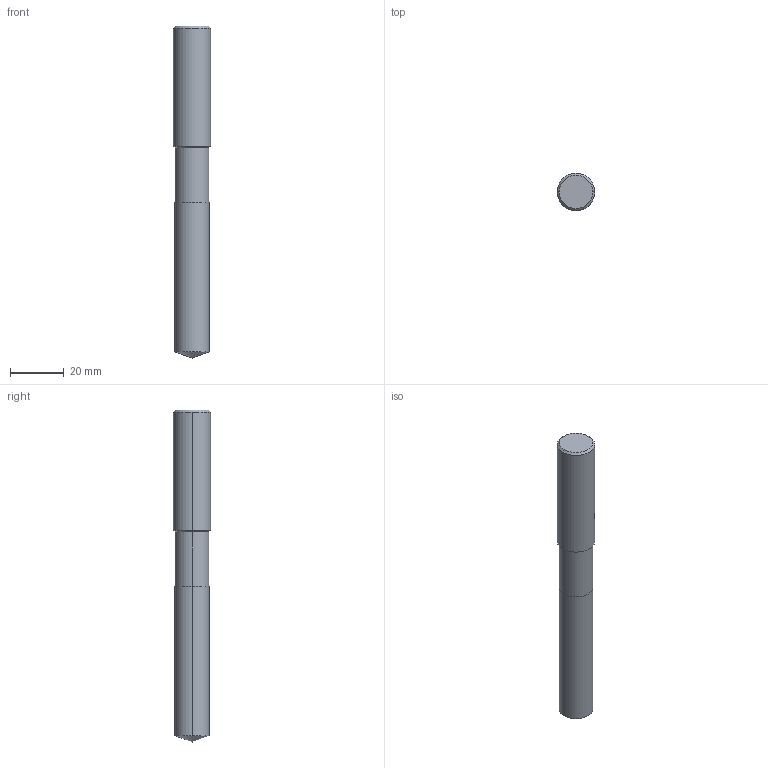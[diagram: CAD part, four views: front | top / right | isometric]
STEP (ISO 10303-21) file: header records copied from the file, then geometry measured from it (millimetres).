
FILE_DESCRIPTION(('STEP AP214'),'1');
FILE_NAME('cctmp_7E5A2153-C32F-4BD4-B3C8-7D1166B90843_2020_11_02_13_17_47_0817..stp','2020-11-02T12:17:47',('Meusburger Georg GmbH & Co KG'),('CADClick - www.CADClick.com'),'Spatial InterOp 3D',' ','unknown authorization');
FILE_SCHEMA(('AUTOMOTIVE_DESIGN { 1 0 10303 214 1 1 1 1 }'));
Length unit declared in the file: millimetre
Products named in the file (1): WZB10223_12.7
Bounding box: 14 x 14 x 124 mm (x, y, z)
Volume: 16725.5 mm3; surface area: 5322.1 mm2
Topology: 1 solids, 1 shells, 14 faces, 28 edges, 15 vertices
Faces by surface type: cylinder 6, cone 6, plane 2
Entity records: 484 total; most frequent: DIRECTION 70, CARTESIAN_POINT 56, ORIENTED_EDGE 52, AXIS2_PLACEMENT_3D 29, EDGE_CURVE 26, STYLED_ITEM 15, PRESENTATION_STYLE_ASSIGNMENT 15, SURFACE_STYLE_USAGE 15
